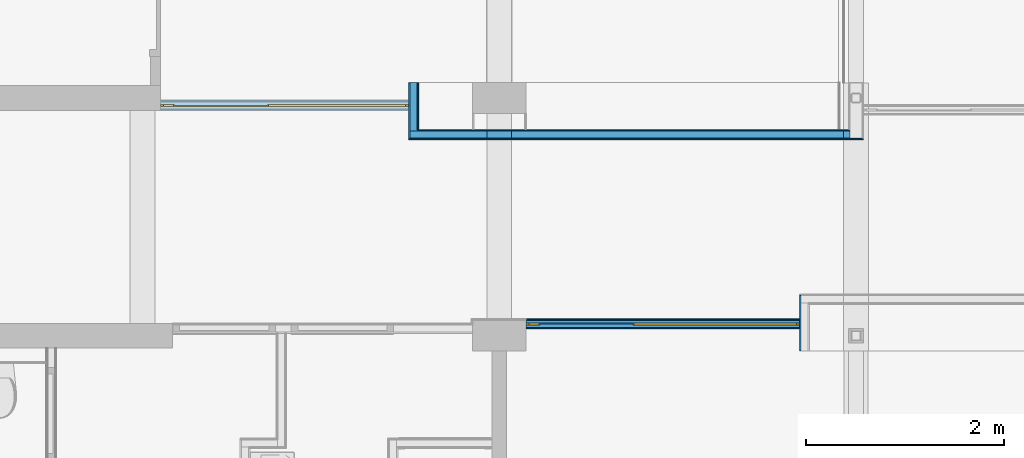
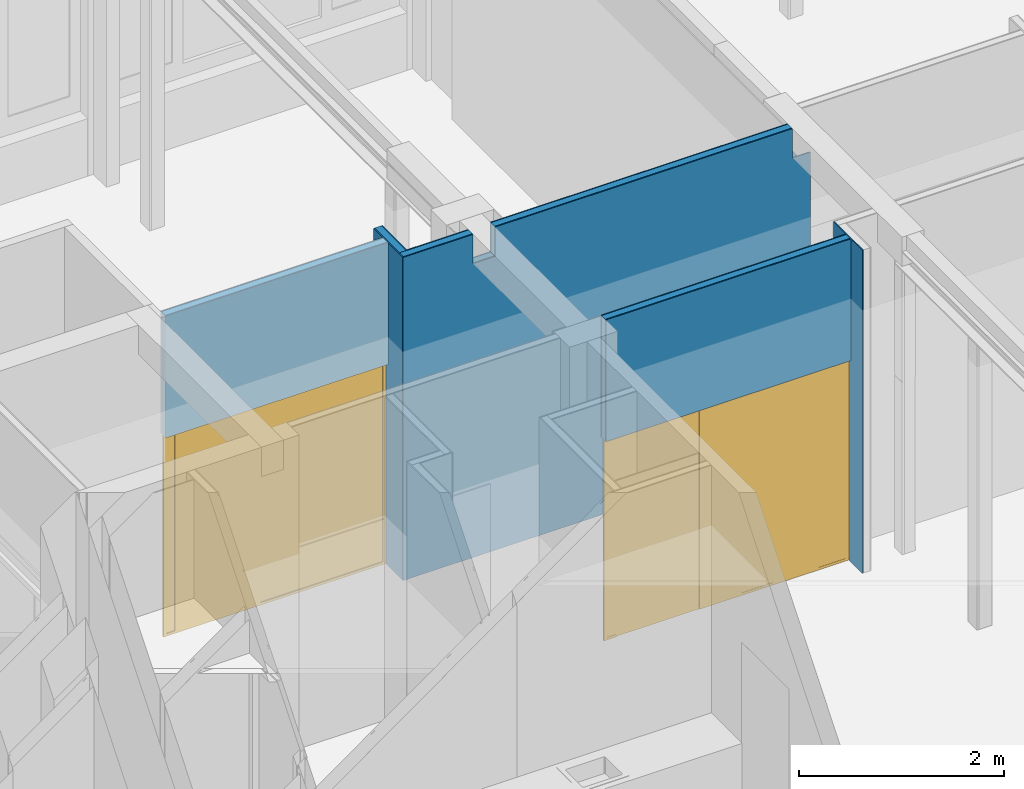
# One storey, part 108 of 135: 10 building element parts, 2 doors, 2 openings, 5 elements without a shape of their own, plus 3 elements that do not belong to this part.
"""IFC2X3 building model written with IfcOpenShell, lengths in millimetres."""

import ifcopenshell
import ifcopenshell.guid

model = None  # the IFC model being written
_history = None  # IfcOwnerHistory: only IFC2X3 demands one
_inside = {}  # id of a spatial element -> (the spatial element, [elements in it])
_under = {}  # id of a project, library or spatial element -> (it, [spatial elements below it])
_declared = {}  # id of a project -> (the project, [libraries it declares])
_typed = {}  # id of a type object -> (the type object, [elements of that type])
_made_of = {}  # id of a material, layer set ... -> (it, [elements and type objects made of it])


def new_model(schema):
    """Start an empty IFC model of exactly this schema.

    Asked for "IFC4X3", IfcOpenShell would pick the latest addendum, in which some entities
    have other attributes; the version numbers below select the first issue.
    IFC2X3 requires an IfcOwnerHistory on every rooted entity: one is made here for all.
    """
    global model, _history
    if schema == "IFC4X3":
        model = ifcopenshell.file(schema_version=(4, 3, 0, 0))
    else:
        model = ifcopenshell.file(schema=schema)
    _inside.clear()
    _under.clear()
    _declared.clear()
    _typed.clear()
    _made_of.clear()
    _history = None
    if model.schema == "IFC2X3":
        org = make("IfcOrganization", Name="unknown")
        user = make(
            "IfcPersonAndOrganization",
            ThePerson=make("IfcPerson", FamilyName="unknown"),
            TheOrganization=org,
        )
        app = make(
            "IfcApplication",
            ApplicationDeveloper=org,
            Version="unknown",
            ApplicationFullName="unknown",
            ApplicationIdentifier="unknown",
        )
        _history = make(
            "IfcOwnerHistory",
            OwningUser=user,
            OwningApplication=app,
            ChangeAction="ADDED",
            CreationDate=0,
        )
    return model


def make(cls, **values):
    """One entity of the class cls with the attributes given. An attribute that is None is left unset."""
    return model.create_entity(
        cls, **{name: value for name, value in values.items() if value is not None}
    )


def entity(cls, *values):
    """Any entity or typed value of the class cls, its attributes in the order of the schema. None: left unset."""
    e = model.create_entity(cls)
    for i, value in enumerate(values):
        if value is not None:
            e[i] = value
    return e


def rooted(cls, **values):
    """An entity with a GlobalId (a new one), such as an element, a storey or a relation."""
    return make(cls, GlobalId=ifcopenshell.guid.new(), OwnerHistory=_history, **values)


def si_unit(unit_type, name, prefix=None):
    """IfcSIUnit, for example si_unit("LENGTHUNIT", "METRE", prefix="MILLI")."""
    return make("IfcSIUnit", UnitType=unit_type, Prefix=prefix, Name=name)


def converted_unit(unit_type, name, factor, base, dimensions=None, offset=None):
    """IfcConversionBasedUnit, such as the inch: factor (a typed value) times the base unit."""
    return make(
        "IfcConversionBasedUnit"
        if offset is None
        else "IfcConversionBasedUnitWithOffset",
        ConversionOffset=offset,
        Dimensions=None
        if dimensions is None
        else entity("IfcDimensionalExponents", *dimensions),
        UnitType=unit_type,
        Name=name,
        ConversionFactor=make(
            "IfcMeasureWithUnit", ValueComponent=factor, UnitComponent=base
        ),
    )


def derived_unit(unit_type, elements):
    """IfcDerivedUnit: a product of units, each with its exponent."""
    return make(
        "IfcDerivedUnit",
        Elements=[
            make("IfcDerivedUnitElement", Unit=unit, Exponent=power)
            for unit, power in elements
        ],
        UnitType=unit_type,
    )


def money_unit(currency):
    """IfcMonetaryUnit."""
    return make("IfcMonetaryUnit", Currency=currency)


def assignment(units):
    """IfcUnitAssignment: the units of a project."""
    return None if units is None else make("IfcUnitAssignment", Units=units)


def point(xyz):
    """IfcCartesianPoint."""
    return None if xyz is None else make("IfcCartesianPoint", Coordinates=xyz)


def direction(xyz):
    """IfcDirection."""
    return None if xyz is None else make("IfcDirection", DirectionRatios=xyz)


def frame(location, z_axis=None, x_axis=None):
    """IfcAxis2Placement3D, a coordinate frame: its origin and axes. An axis left out is left unset."""
    return make(
        "IfcAxis2Placement3D",
        Location=point(location),
        Axis=direction(z_axis),
        RefDirection=direction(x_axis),
    )


def origin_with_axes():
    """The frame at (0, 0, 0) with the z axis (0, 0, 1) and the x axis (1, 0, 0) written out."""
    return frame((0.0, 0.0, 0.0), z_axis=(0.0, 0.0, 1.0), x_axis=(1.0, 0.0, 0.0))


def place(relative_to, where):
    """IfcLocalPlacement: puts the frame where relative to a parent placement (None: the world)."""
    return make(
        "IfcLocalPlacement", PlacementRelTo=relative_to, RelativePlacement=where
    )


def context(
    kind, dimensions, precision=None, world=None, true_north=None, identifier=None
):
    """IfcGeometricRepresentationContext, for example the 3D "Model" context."""
    return make(
        "IfcGeometricRepresentationContext",
        ContextIdentifier=identifier,
        ContextType=kind,
        CoordinateSpaceDimension=dimensions,
        Precision=precision,
        WorldCoordinateSystem=world,
        TrueNorth=true_north,
    )


def subcontext(parent, identifier, kind, view, scale=None):
    """IfcGeometricRepresentationSubContext, for example "Body" below "Model"."""
    return make(
        "IfcGeometricRepresentationSubContext",
        ContextIdentifier=identifier,
        ContextType=kind,
        ParentContext=parent,
        TargetScale=scale,
        TargetView=view,
    )


def project(units=None, contexts=None):
    """IfcProject with its units and contexts."""
    return rooted(
        "IfcProject",
        Name="project",
        RepresentationContexts=contexts,
        UnitsInContext=assignment(units),
    )


def spatial(cls, under=None, at=None, **own):
    """A site, building, storey or space (cls), placed at a placement, below another one or the project."""
    s = rooted(cls, ObjectPlacement=at, **own)
    if under is not None:
        _under.setdefault(under.id(), (under, []))[1].append(s)
    return s


def faces_of(points, faces, orient=None, outer=None):
    """IfcFace entities. A face is a list of loops; a loop is a list of indices into points, from 0.

    orient and outer hold one flag for each loop. By default every Orientation is true, the
    first loop of a face is its IfcFaceOuterBound and the others are IfcFaceBound.
    """
    made = []
    for i, loops in enumerate(faces):
        bounds = []
        for j, loop in enumerate(loops):
            is_outer = j == 0 if outer is None else outer[i][j]
            bounds.append(
                make(
                    "IfcFaceOuterBound" if is_outer else "IfcFaceBound",
                    Bound=make("IfcPolyLoop", Polygon=[points[k] for k in loop]),
                    Orientation=True if orient is None else orient[i][j],
                )
            )
        made.append(make("IfcFace", Bounds=bounds))
    return made


def open_shell(faces, orient=None, outer=None):
    """The faces of one IfcOpenShell. surface_model builds it on its shared points."""
    return ("IfcOpenShell", faces, orient, outer)


def faceted_brep(points, faces, orient=None, outer=None, voids=None):
    """IfcFacetedBrep: a solid bounded by flat faces; with voids (closed shells), ...WithVoids."""
    shared = [point(p) for p in points]
    hull = make("IfcClosedShell", CfsFaces=faces_of(shared, faces, orient, outer))
    if voids is None:
        return make("IfcFacetedBrep", Outer=hull)
    return make(
        "IfcFacetedBrepWithVoids",
        Outer=hull,
        Voids=[
            make(cls, CfsFaces=faces_of(shared, fs, o, b)) for cls, fs, o, b in voids
        ],
    )


def surface_model(cls, points, shells):
    """IfcFaceBasedSurfaceModel or IfcShellBasedSurfaceModel (cls): surfaces that need not close."""
    shared = [point(p) for p in points]
    made = [make(c, CfsFaces=faces_of(shared, fs, o, b)) for c, fs, o, b in shells]
    if cls == "IfcFaceBasedSurfaceModel":
        return make(cls, FbsmFaces=made)
    return make(cls, SbsmBoundary=made)


def shape(context_of_items, identifier, shape_type, items):
    """IfcShapeRepresentation: the items that make up one representation, for example the "Body"."""
    return make(
        "IfcShapeRepresentation",
        ContextOfItems=context_of_items,
        RepresentationIdentifier=identifier,
        RepresentationType=shape_type,
        Items=items,
    )


def material(Name=None, Category=None):
    """IfcMaterial."""
    return make("IfcMaterial", Name=Name, Category=Category)


def made_of(thing, what):
    """Note that an element or type object is made of a material, layer set ...; save() writes the relation."""
    if what is not None:
        _made_of.setdefault(what.id(), (what, []))[1].append(thing)
    return thing


def type_object(cls, material=None, **own):
    """A type object (cls), such as IfcWallType, which elements share."""
    return made_of(rooted(cls, **own), material)


def element(
    cls,
    number,
    at=None,
    inside=None,
    cuts=None,
    type_object=None,
    material=None,
    context=None,
    identifier="Body",
    shape_type=None,
    held_by="IfcProductDefinitionShape",
    body=None,
    shapes=None,
    **own,
):
    """One element of the class cls, such as IfcWall. Its Tag is "e" and its number.

    at: its placement. inside: the storey or other place that contains it. cuts: it is an
    opening in that element (IfcRelVoidsElement). A single representation is given by context,
    identifier, shape_type and body (its items); several are given by shapes. held_by: the class
    of the entity that holds the representations. save() writes the other relations.
    """
    e = rooted(cls, Tag="e%d" % number, ObjectPlacement=at, **own)
    if body is not None:
        shapes = [shape(context, identifier, shape_type, body)]
    if shapes is not None:
        e.Representation = make(held_by, Representations=shapes)
    if inside is not None:
        _inside.setdefault(inside.id(), (inside, []))[1].append(e)
    if cuts is not None:
        rooted(
            "IfcRelVoidsElement", RelatingBuildingElement=cuts, RelatedOpeningElement=e
        )
    if type_object is not None:
        _typed.setdefault(type_object.id(), (type_object, []))[1].append(e)
    return made_of(e, material)


def fill(opening, filler):
    """IfcRelFillsElement: the door or window that sits in an opening."""
    return rooted(
        "IfcRelFillsElement",
        RelatingOpeningElement=opening,
        RelatedBuildingElement=filler,
    )


def aggregate(whole, parts):
    """IfcRelAggregates: a whole, such as a stair, and the parts it consists of."""
    return rooted("IfcRelAggregates", RelatingObject=whole, RelatedObjects=parts)


def save(model, path):
    """Write the relations noted so far, then the file.

    IfcRelAggregates (storeys below a building ...), IfcRelContainedInSpatialStructure (elements
    in a storey), IfcRelDefinesByType, IfcRelAssociatesMaterial and IfcRelDeclares: one each for
    every whole, place, type object, material and project.
    """
    for whole, parts in _under.values():
        aggregate(whole, parts)
    for where, things in _inside.values():
        rooted(
            "IfcRelContainedInSpatialStructure",
            RelatedElements=things,
            RelatingStructure=where,
        )
    for kind, things in _typed.values():
        rooted("IfcRelDefinesByType", RelatedObjects=things, RelatingType=kind)
    for what, things in _made_of.values():
        rooted("IfcRelAssociatesMaterial", RelatedObjects=things, RelatingMaterial=what)
    for by, libraries in _declared.values():
        rooted("IfcRelDeclares", RelatingContext=by, RelatedDefinitions=libraries)
    model.write(path)


model = new_model("IFC2X3")

# Units and contexts
model_context = context("Model", 3, precision=0.01, world=origin_with_axes(), true_north=direction((0.0, 1.0)))
body_context = subcontext(model_context, "Body", "Model", "MODEL_VIEW")
ifc_project = project(units=[si_unit("LENGTHUNIT", "METRE", prefix="MILLI"), si_unit("AREAUNIT", "SQUARE_METRE"), si_unit("VOLUMEUNIT", "CUBIC_METRE"), converted_unit("PLANEANGLEUNIT", "DEGREE", entity("IfcPlaneAngleMeasure", 0.0174532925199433), si_unit("PLANEANGLEUNIT", "RADIAN"), dimensions=[0, 0, 0, 0, 0, 0, 0]), money_unit("EUR"), converted_unit("TIMEUNIT", "Year", entity("IfcTimeMeasure", 31557600.0), si_unit("TIMEUNIT", "SECOND"), dimensions=[0, 0, 1, 0, 0, 0, 0]), si_unit("MASSUNIT", "GRAM", prefix="KILO"), si_unit("THERMODYNAMICTEMPERATUREUNIT", "DEGREE_CELSIUS"), si_unit("LUMINOUSINTENSITYUNIT", "LUMEN"), si_unit("ENERGYUNIT", "JOULE", prefix="MEGA"), derived_unit("THERMALCONDUCTANCEUNIT", [(si_unit("POWERUNIT", "WATT"), 1), (si_unit("LENGTHUNIT", "METRE"), -1), (si_unit("THERMODYNAMICTEMPERATUREUNIT", "KELVIN"), -1)]), derived_unit("SPECIFICHEATCAPACITYUNIT", [(si_unit("ENERGYUNIT", "JOULE"), 1), (si_unit("MASSUNIT", "GRAM", prefix="KILO"), -1), (si_unit("THERMODYNAMICTEMPERATUREUNIT", "KELVIN"), -1)]), derived_unit("MASSDENSITYUNIT", [(si_unit("MASSUNIT", "GRAM", prefix="KILO"), 1), (si_unit("VOLUMEUNIT", "CUBIC_METRE"), -1)])], contexts=[model_context])

# Site, building, storey
site_placement = place(None, origin_with_axes())
site = spatial("IfcSite", under=ifc_project, at=site_placement, Name="Site", CompositionType="ELEMENT")
building_placement = place(site_placement, origin_with_axes())
building = spatial("IfcBuilding", under=site, at=building_placement, Name="Naam gebouw", CompositionType="ELEMENT")
storey_placement = place(building_placement, origin_with_axes())
storey = spatial("IfcBuildingStorey", under=building, at=storey_placement, Name="Begane grond N", CompositionType="ELEMENT", Elevation=0.0)

# Door
door_style = type_object("IfcDoorStyle", Name="D1 zl2 27", ConstructionType="NOTDEFINED", OperationType="USERDEFINED", ParameterTakesPrecedence=False, Sizeable=False)
wall_3_placement = place(storey_placement, frame((32581.11706441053, 20350.91242510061, 0.0), z_axis=(0.0, 0.0, 1.0), x_axis=(1.0, 0.0, 0.0)))
opening_1_placement = place(wall_3_placement, frame((1251.941467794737, 0.0, 0.0), z_axis=(0.0, 0.0, 1.0), x_axis=(1.0, 0.0, 0.0)))
door_1_placement = place(opening_1_placement, frame((-1251.941467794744, 0.0, 0.0), z_axis=(0.0, 0.0, 1.0), x_axis=(1.0, 0.0, 0.0)))
door_1 = element("IfcDoor", 1, at=door_1_placement, inside=storey, type_object=door_style, Name="_Merk-x", ObjectType="DOOR", OverallHeight=2400.0, OverallWidth=2503.88, context=body_context, shape_type="SurfaceModel", body=[
    faceted_brep([(2503.882935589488, 9.99999999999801, 0.0), (2503.882935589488, -10.00000000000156, 0.0), (2473.882935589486, -10.00000000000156, 0.0), (2473.882935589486, 9.99999999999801, 0.0), (2503.882935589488, 9.99999999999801, 2370.0), (2503.882935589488, -10.00000000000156, 2370.0), (2473.882935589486, -10.00000000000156, 2370.0), (2473.882935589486, -10.00000000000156, 30.0), (2473.882935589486, 9.99999999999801, 30.0), (2473.882935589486, 9.99999999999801, 2370.0)], [[[0, 1, 2, 3]], [[4, 5, 1, 0]], [[1, 5, 6, 7, 2]], [[3, 2, 7, 8]], [[0, 3, 8, 9, 4]], [[9, 6, 5, 4]], [[8, 7, 6, 9]]]),
    faceted_brep([(1060.000000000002, -9.000000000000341, 0.0), (1060.000000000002, -10.00000000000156, 0.0), (1060.000000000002, -10.00000000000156, 2370.0), (1060.000000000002, -9.000000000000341, 2370.0), (1077.000000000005, -9.000000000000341, 0.0), (1077.000000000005, 9.99999999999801, 0.0), (1090.000000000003, 9.99999999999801, 0.0), (1090.000000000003, -10.00000000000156, 0.0), (1090.000000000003, -10.00000000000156, 30.00000000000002), (1090.000000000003, -10.00000000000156, 2370.0), (1077.000000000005, -9.000000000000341, 2370.0), (1090.000000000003, 9.99999999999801, 2370.0), (1077.000000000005, 9.99999999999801, 2370.0), (1090.000000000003, 9.99999999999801, 30.00000000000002)], [[[0, 1, 2, 3]], [[4, 5, 6, 7, 1, 0]], [[7, 8, 9, 2, 1]], [[10, 3, 2, 9, 11, 12]], [[10, 4, 0, 3]], [[12, 5, 4, 10]], [[12, 11, 13, 6, 5]], [[6, 13, 8, 7]], [[13, 11, 9, 8]]]),
    faceted_brep([(2473.882935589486, 9.99999999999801, 30.0), (2473.882935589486, -10.00000000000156, 30.0), (2473.882935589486, -10.00000000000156, 0.0), (2473.882935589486, 9.99999999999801, 0.0), (1090.000000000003, 9.99999999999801, 30.0), (1090.000000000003, -10.00000000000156, 30.0), (1090.000000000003, -10.00000000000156, 0.0), (1090.000000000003, 9.99999999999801, 0.0)], [[[0, 1, 2, 3]], [[4, 5, 1, 0]], [[1, 5, 6, 2]], [[3, 2, 6, 7]], [[0, 3, 7, 4]], [[7, 6, 5, 4]]]),
    faceted_brep([(0.0, 9.99999999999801, 0.0), (0.0, -10.00000000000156, 0.0), (0.0, -10.00000000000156, 2370.0), (0.0, 9.99999999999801, 2370.0), (30.00000000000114, 9.99999999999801, 0.0), (30.00000000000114, -10.00000000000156, 0.0), (30.00000000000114, -10.00000000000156, 30.0), (30.00000000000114, -10.00000000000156, 2370.0), (30.00000000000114, 9.99999999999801, 2370.0), (30.00000000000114, 9.99999999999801, 30.0)], [[[0, 1, 2, 3]], [[4, 5, 1, 0]], [[1, 5, 6, 7, 2]], [[3, 2, 7, 8]], [[0, 3, 8, 9, 4]], [[9, 6, 5, 4]], [[8, 7, 6, 9]]]),
    faceted_brep([(143.0000000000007, -9.000000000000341, 2370.0), (143.0000000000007, 9.99999999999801, 2370.0), (130.0000000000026, 9.99999999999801, 2370.0), (130.0000000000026, -10.00000000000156, 2370.0), (160.0000000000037, -10.00000000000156, 2370.0), (160.0000000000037, -9.000000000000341, 2370.0), (143.0000000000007, -9.000000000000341, 0.0), (143.0000000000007, 9.99999999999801, 0.0), (130.0000000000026, 9.99999999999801, 0.0), (130.0000000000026, 9.99999999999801, 30.00000000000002), (130.0000000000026, -10.00000000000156, 30.00000000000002), (160.0000000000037, -10.00000000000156, 0.0), (130.0000000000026, -10.00000000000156, 0.0), (160.0000000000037, -9.000000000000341, 0.0)], [[[0, 1, 2, 3, 4, 5]], [[0, 6, 7, 1]], [[7, 8, 9, 2, 1]], [[2, 9, 10, 3]], [[11, 4, 3, 10, 12]], [[5, 4, 11, 13]], [[5, 13, 6, 0]], [[6, 13, 11, 12, 8, 7]], [[9, 8, 12, 10]]]),
    faceted_brep([(130.0000000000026, 9.99999999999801, 30.0), (130.0000000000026, -10.00000000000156, 30.0), (130.0000000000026, -10.00000000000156, 0.0), (130.0000000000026, 9.99999999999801, 0.0), (30.00000000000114, 9.99999999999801, 30.0), (30.00000000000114, -10.00000000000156, 30.0), (30.00000000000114, -10.00000000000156, 0.0), (30.00000000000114, 9.99999999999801, 0.0)], [[[0, 1, 2, 3]], [[4, 5, 1, 0]], [[1, 5, 6, 2]], [[3, 2, 6, 7]], [[0, 3, 7, 4]], [[7, 6, 5, 4]]]),
    faceted_brep([(1077.000000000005, 9.99999999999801, 2387.0), (143.0000000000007, 9.99999999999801, 2387.0), (143.0000000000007, 9.99999999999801, 2370.0), (130.0000000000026, 9.99999999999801, 2370.0), (30.00000000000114, 9.99999999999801, 2370.0), (0.0, 9.99999999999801, 2370.0), (0.0, 9.99999999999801, 2400.0), (2503.882935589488, 9.99999999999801, 2400.0), (2503.882935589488, 9.99999999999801, 2370.0), (2473.882935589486, 9.99999999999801, 2370.0), (1090.000000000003, 9.99999999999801, 2370.0), (1077.000000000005, 9.99999999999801, 2370.0), (1077.000000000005, -9.000000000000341, 2387.0), (143.0000000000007, -9.000000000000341, 2387.0), (143.0000000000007, -9.000000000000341, 2370.0), (160.0000000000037, -9.000000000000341, 2370.0), (160.0000000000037, -10.00000000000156, 2370.0), (130.0000000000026, -10.00000000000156, 2370.0), (30.00000000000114, -10.00000000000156, 2370.0), (0.0, -10.00000000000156, 2370.0), (0.0, -10.00000000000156, 2400.0), (2503.882935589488, -10.00000000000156, 2400.0), (2503.882935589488, -10.00000000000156, 2370.0), (2473.882935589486, -10.00000000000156, 2370.0), (1090.000000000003, -10.00000000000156, 2370.0), (1077.000000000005, -9.000000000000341, 2370.0), (1060.000000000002, -10.00000000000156, 2370.0)], [[[0, 1, 2, 3, 4, 5, 6, 7, 8, 9, 10, 11]], [[0, 12, 13, 1]], [[1, 13, 14, 2]], [[14, 15, 16, 17, 18, 4, 3, 2]], [[5, 4, 18, 19]], [[6, 5, 19, 20]], [[7, 6, 20, 21]], [[8, 7, 21, 22]], [[9, 8, 22, 23]], [[10, 9, 23, 24]], [[25, 11, 10, 24, 26, 16, 15]], [[11, 25, 12, 0]], [[14, 13, 12, 25, 15]], [[18, 17, 16, 26, 24, 23, 22, 21, 20, 19]]]),
    faceted_brep([(143.0000000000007, 0.9999999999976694, 0.0), (1077.000000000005, 0.9999999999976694, 0.0), (1077.000000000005, -9.000000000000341, 0.0), (143.0000000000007, -9.000000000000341, 0.0), (143.0000000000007, 0.9999999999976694, 2387.0), (1077.000000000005, 0.9999999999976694, 2387.0), (1077.000000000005, -9.000000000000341, 2387.0), (143.0000000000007, -9.000000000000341, 2387.0)], [[[0, 1, 2, 3]], [[0, 4, 5, 1]], [[1, 5, 6, 2]], [[3, 2, 6, 7]], [[4, 0, 3, 7]], [[5, 4, 7, 6]]]),
    surface_model("IfcShellBasedSurfaceModel", [(2473.882935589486, 8.999999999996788, 30.0), (1090.000000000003, 8.999999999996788, 30.0), (1090.000000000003, 8.999999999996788, 2370.0), (2473.882935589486, 8.999999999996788, 2370.0)], [open_shell([[[0, 1, 2, 3]]])]),
    surface_model("IfcShellBasedSurfaceModel", [(2473.882935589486, 0.9999999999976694, 30.0), (2473.882935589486, 0.9999999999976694, 2370.0), (1090.000000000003, 0.9999999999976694, 2370.0), (1090.000000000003, 0.9999999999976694, 30.0)], [open_shell([[[0, 1, 2, 3]]])]),
    surface_model("IfcShellBasedSurfaceModel", [(130.0000000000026, 8.999999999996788, 30.0), (30.00000000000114, 8.999999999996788, 30.0), (30.00000000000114, 8.999999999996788, 2370.0), (130.0000000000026, 8.999999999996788, 2370.0)], [open_shell([[[0, 1, 2, 3]]])]),
    surface_model("IfcShellBasedSurfaceModel", [(130.0000000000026, 0.9999999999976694, 30.0), (130.0000000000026, 0.9999999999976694, 2370.0), (30.00000000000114, 0.9999999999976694, 2370.0), (30.00000000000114, 0.9999999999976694, 30.0)], [open_shell([[[0, 1, 2, 3]]])]),
])

wall_4_placement = place(storey_placement, frame((36270.0, 18145.9124251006, 0.0), z_axis=(0.0, 0.0, 1.0), x_axis=(1.0, 0.0, 0.0)))
opening_2_placement = place(wall_4_placement, frame((1379.999999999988, 0.0, 0.0), z_axis=(0.0, 0.0, 1.0), x_axis=(1.0, 0.0, 0.0)))
door_2_placement = place(opening_2_placement, frame((1379.999999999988, 0.0, 0.0), z_axis=(0.0, 0.0, 1.0), x_axis=(-1.0, 0.0, 0.0)))
door_2 = element("IfcDoor", 2, at=door_2_placement, inside=storey, type_object=door_style, Name="_Merk-x", ObjectType="DOOR", OverallHeight=2400.0, OverallWidth=2760.0, context=body_context, shape_type="SurfaceModel", body=[
    faceted_brep([(0.0, 10.00000000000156, 0.0), (30.00000000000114, 10.00000000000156, 0.0), (30.00000000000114, -9.99999999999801, 0.0), (0.0, -9.99999999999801, 0.0), (0.0, 10.00000000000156, 2370.0), (30.00000000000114, 10.00000000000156, 2370.0), (30.00000000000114, 10.00000000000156, 30.0), (30.00000000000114, -9.99999999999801, 30.0), (30.00000000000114, -9.99999999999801, 2370.0), (0.0, -9.99999999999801, 2370.0)], [[[0, 1, 2, 3]], [[0, 4, 5, 6, 1]], [[1, 6, 7, 2]], [[3, 2, 7, 8, 9]], [[4, 0, 3, 9]], [[5, 4, 9, 8]], [[6, 5, 8, 7]]]),
    faceted_brep([(1699.999999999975, -8.999999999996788, 0.0), (1699.999999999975, -9.000000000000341, 2370.0), (1699.999999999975, -9.99999999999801, 2370.0), (1699.999999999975, -9.99999999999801, 0.0), (1682.999999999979, -9.000000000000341, 2370.0), (1682.999999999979, -8.999999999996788, 0.0), (1682.999999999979, 10.00000000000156, 2370.0), (1669.99999999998, 10.00000000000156, 2370.0), (1669.99999999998, -9.99999999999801, 2370.0), (1669.99999999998, -9.99999999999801, 0.0), (1669.99999999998, -9.99999999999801, 30.00000000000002), (1669.99999999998, 10.00000000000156, 0.0), (1682.999999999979, 10.00000000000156, 0.0), (1669.99999999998, 10.00000000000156, 30.00000000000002)], [[[0, 1, 2, 3]], [[4, 1, 0, 5]], [[4, 6, 7, 8, 2, 1]], [[9, 3, 2, 8, 10]], [[5, 0, 3, 9, 11, 12]], [[6, 4, 5, 12]], [[6, 12, 11, 13, 7]], [[13, 10, 8, 7]], [[11, 9, 10, 13]]]),
    faceted_brep([(30.00000000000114, 10.00000000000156, 30.0), (30.00000000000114, 10.00000000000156, 0.0), (30.00000000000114, -9.99999999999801, 0.0), (30.00000000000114, -9.99999999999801, 30.0), (1669.99999999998, 10.00000000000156, 30.0), (1669.99999999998, 10.00000000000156, 0.0), (1669.99999999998, -9.99999999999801, 0.0), (1669.99999999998, -9.99999999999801, 30.0)], [[[0, 1, 2, 3]], [[0, 4, 5, 1]], [[1, 5, 6, 2]], [[3, 2, 6, 7]], [[4, 0, 3, 7]], [[5, 4, 7, 6]]]),
    faceted_brep([(2759.999999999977, 10.00000000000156, 0.0), (2759.999999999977, 10.00000000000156, 2370.0), (2759.999999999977, -9.99999999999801, 2370.0), (2759.999999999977, -9.99999999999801, 0.0), (2729.999999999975, 10.00000000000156, 0.0), (2729.999999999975, 10.00000000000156, 30.0), (2729.999999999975, 10.00000000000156, 2370.0), (2729.999999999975, -9.99999999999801, 2370.0), (2729.999999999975, -9.99999999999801, 30.0), (2729.999999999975, -9.99999999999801, 0.0)], [[[0, 1, 2, 3]], [[0, 4, 5, 6, 1]], [[1, 6, 7, 2]], [[3, 2, 7, 8, 9]], [[4, 0, 3, 9]], [[5, 4, 9, 8]], [[6, 5, 8, 7]]]),
    faceted_brep([(2616.999999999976, -9.000000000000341, 2370.0), (2599.99999999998, -9.000000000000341, 2370.0), (2599.99999999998, -9.99999999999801, 2370.0), (2629.999999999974, -9.99999999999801, 2370.0), (2629.999999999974, 10.00000000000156, 2370.0), (2616.999999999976, 10.00000000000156, 2370.0), (2616.999999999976, -9.000000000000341, 0.0), (2599.99999999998, -9.000000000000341, 0.0), (2599.99999999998, -9.99999999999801, 0.0), (2629.999999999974, -9.99999999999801, 0.0), (2629.999999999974, -9.99999999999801, 30.00000000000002), (2629.999999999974, 10.00000000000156, 30.00000000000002), (2616.999999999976, 10.00000000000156, 0.0), (2629.999999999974, 10.00000000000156, 0.0)], [[[0, 1, 2, 3, 4, 5]], [[1, 0, 6, 7]], [[1, 7, 8, 2]], [[8, 9, 10, 3, 2]], [[4, 3, 10, 11]], [[12, 5, 4, 11, 13]], [[0, 5, 12, 6]], [[6, 12, 13, 9, 8, 7]], [[11, 10, 9, 13]]]),
    faceted_brep([(2629.999999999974, 10.00000000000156, 30.0), (2629.999999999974, 10.00000000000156, 0.0), (2629.999999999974, -9.99999999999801, 0.0), (2629.999999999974, -9.99999999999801, 30.0), (2729.999999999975, 10.00000000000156, 30.0), (2729.999999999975, 10.00000000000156, 0.0), (2729.999999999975, -9.99999999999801, 0.0), (2729.999999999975, -9.99999999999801, 30.0)], [[[0, 1, 2, 3]], [[0, 4, 5, 1]], [[1, 5, 6, 2]], [[3, 2, 6, 7]], [[4, 0, 3, 7]], [[5, 4, 7, 6]]]),
    faceted_brep([(1682.999999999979, 10.00000000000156, 2387.0), (1682.999999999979, 10.00000000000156, 2370.0), (1669.99999999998, 10.00000000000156, 2370.0), (30.00000000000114, 10.00000000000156, 2370.0), (0.0, 10.00000000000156, 2370.0), (0.0, 10.00000000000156, 2400.0), (2759.999999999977, 10.00000000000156, 2400.0), (2759.999999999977, 10.00000000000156, 2370.0), (2729.999999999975, 10.00000000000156, 2370.0), (2629.999999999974, 10.00000000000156, 2370.0), (2616.999999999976, 10.00000000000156, 2370.0), (2616.999999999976, 10.00000000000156, 2387.0), (1682.999999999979, -9.000000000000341, 2387.0), (1682.999999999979, -9.000000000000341, 2370.0), (2599.99999999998, -9.000000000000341, 2370.0), (2599.99999999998, -9.99999999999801, 2370.0), (1699.999999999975, -9.99999999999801, 2370.0), (1669.99999999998, -9.99999999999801, 2370.0), (30.00000000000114, -9.99999999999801, 2370.0), (0.0, -9.99999999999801, 2370.0), (0.0, -9.99999999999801, 2400.0), (2759.999999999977, -9.99999999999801, 2400.0), (2759.999999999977, -9.99999999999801, 2370.0), (2729.999999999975, -9.99999999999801, 2370.0), (2616.999999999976, -9.000000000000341, 2370.0), (2629.999999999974, -9.99999999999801, 2370.0), (2616.999999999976, -9.000000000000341, 2387.0)], [[[0, 1, 2, 3, 4, 5, 6, 7, 8, 9, 10, 11]], [[1, 0, 12, 13]], [[13, 14, 15, 16, 17, 2, 1]], [[2, 17, 18, 3]], [[3, 18, 19, 4]], [[4, 19, 20, 5]], [[5, 20, 21, 6]], [[6, 21, 22, 7]], [[7, 22, 23, 8]], [[24, 10, 9, 8, 23, 25, 15, 14]], [[11, 10, 24, 26]], [[0, 11, 26, 12]], [[24, 14, 13, 12, 26]], [[23, 22, 21, 20, 19, 18, 17, 16, 15, 25]]]),
    faceted_brep([(2616.999999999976, 1.000000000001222, 0.0), (2616.999999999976, -9.000000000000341, 0.0), (1682.999999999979, -8.999999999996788, 0.0), (1682.999999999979, 1.000000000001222, 0.0), (2616.999999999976, 1.000000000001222, 2387.0), (2616.999999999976, -9.000000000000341, 2387.0), (1682.999999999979, -9.000000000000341, 2387.0), (1682.999999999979, 1.000000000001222, 2387.0)], [[[0, 1, 2, 3]], [[4, 5, 1, 0]], [[1, 5, 6, 2]], [[3, 2, 6, 7]], [[0, 3, 7, 4]], [[7, 6, 5, 4]]]),
    surface_model("IfcShellBasedSurfaceModel", [(30.00000000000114, 9.000000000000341, 30.0), (30.00000000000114, 9.000000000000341, 2370.0), (1669.99999999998, 9.000000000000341, 2370.0), (1669.99999999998, 9.000000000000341, 30.0)], [open_shell([[[0, 1, 2, 3]]])]),
    surface_model("IfcShellBasedSurfaceModel", [(30.00000000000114, 1.000000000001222, 30.0), (1669.99999999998, 1.000000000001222, 30.0), (1669.99999999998, 1.000000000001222, 2370.0), (30.00000000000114, 1.000000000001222, 2370.0)], [open_shell([[[0, 1, 2, 3]]])]),
    surface_model("IfcShellBasedSurfaceModel", [(2629.999999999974, 9.000000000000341, 30.0), (2629.999999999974, 9.000000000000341, 2370.0), (2729.999999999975, 9.000000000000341, 2370.0), (2729.999999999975, 9.000000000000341, 30.0)], [open_shell([[[0, 1, 2, 3]]])]),
    surface_model("IfcShellBasedSurfaceModel", [(2629.999999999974, 1.000000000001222, 30.0), (2729.999999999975, 1.000000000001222, 30.0), (2729.999999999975, 1.000000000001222, 2370.0), (2629.999999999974, 1.000000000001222, 2370.0)], [open_shell([[[0, 1, 2, 3]]])]),
])

# Wall, building element parts
wall_type = type_object("IfcWallType", Name="Metalstud iso 100 100", PredefinedType="NOTDEFINED")
wall_1_placement = place(storey_placement, frame((35185.00000000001, 20580.9124251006, 0.0), z_axis=(0.0, 0.0, 1.0), x_axis=(0.0, -1.0, 0.0)))
wall_1 = element("IfcWall", 3, at=wall_1_placement, inside=storey, type_object=wall_type, Name="_Wand-x")
ifc_material_1 = material(Name="Gipsplaat")
building_element_part_1_placement = place(wall_1_placement, origin_with_axes())
building_element_part_1 = element("IfcBuildingElementPart", 4, at=building_element_part_1_placement, material=ifc_material_1, Name="Gipsplaat", context=body_context, shape_type="Brep", body=[
    faceted_brep([(0.0, -12.50000000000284, 3850.0), (0.0, 0.0, 3850.0), (0.0, 0.0, 0.0), (0.0, -12.50000000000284, 0.0), (474.9999999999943, 0.0, 3850.0), (474.9999999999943, -12.50000000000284, 3850.0), (474.9999999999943, 0.0, 0.0), (474.9999999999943, -12.50000000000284, 0.0)], [[[0, 1, 2, 3]], [[4, 1, 0, 5]], [[1, 4, 6, 2]], [[2, 6, 7, 3]], [[5, 0, 3, 7]], [[4, 5, 7, 6]]]),
])
building_element_part_2_placement = place(wall_1_placement, origin_with_axes())
building_element_part_2 = element("IfcBuildingElementPart", 5, at=building_element_part_2_placement, material=ifc_material_1, Name="Gipsplaat", context=body_context, shape_type="Brep", body=[
    faceted_brep([(0.0, -100.0000000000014, 3850.0), (0.0, -87.49999999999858, 3850.0), (0.0, -87.49999999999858, 0.0), (0.0, -100.0000000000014, 0.0), (474.9999999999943, -87.49999999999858, 3850.0), (474.9999999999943, -100.0000000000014, 3850.0), (562.499999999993, -100.0000000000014, 3850.0), (562.499999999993, -87.49999999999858, 3850.0), (562.499999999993, -87.49999999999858, 0.0), (562.499999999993, -100.0000000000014, 0.0)], [[[0, 1, 2, 3]], [[4, 1, 0, 5, 6, 7]], [[1, 4, 7, 8, 2]], [[2, 8, 9, 3]], [[5, 0, 3, 9, 6]], [[9, 8, 7, 6]]]),
])
ifc_material_2 = material(Name="Isolatie - Steenwol LSW")
building_element_part_3_placement = place(wall_1_placement, origin_with_axes())
building_element_part_3 = element("IfcBuildingElementPart", 6, at=building_element_part_3_placement, material=ifc_material_2, Name="Isolatie - Steenwol LSW", context=body_context, shape_type="Brep", body=[
    faceted_brep([(0.0, -87.49999999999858, 3850.0), (0.0, -12.50000000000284, 3850.0), (0.0, -12.50000000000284, 0.0), (0.0, -87.49999999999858, 0.0), (474.9999999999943, -12.50000000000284, 3850.0), (474.9999999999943, -87.49999999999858, 3850.0), (487.4999999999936, -87.49999999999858, 3850.0), (487.4999999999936, -12.50000000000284, 3850.0), (487.4999999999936, -12.50000000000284, 0.0), (487.4999999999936, -87.49999999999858, 0.0)], [[[0, 1, 2, 3]], [[4, 1, 0, 5, 6, 7]], [[1, 4, 7, 8, 2]], [[2, 8, 9, 3]], [[5, 0, 3, 9, 6]], [[9, 8, 7, 6]]]),
])
aggregate(wall_1, [building_element_part_1, building_element_part_2, building_element_part_3])

wall_2_placement = place(storey_placement, frame((39600.00000000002, 20105.91242510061, 0.0), z_axis=(0.0, 0.0, 1.0), x_axis=(-1.0, 0.0, 0.0)))
wall_2 = element("IfcWall", 7, at=wall_2_placement, inside=storey, type_object=wall_type, Name="_Wand-x")
building_element_part_4_placement = place(wall_2_placement, origin_with_axes())
building_element_part_4 = element("IfcBuildingElementPart", 8, at=building_element_part_4_placement, material=ifc_material_1, Name="Gipsplaat", context=body_context, shape_type="Brep", body=[
    faceted_brep([(125.0000000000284, 87.49999999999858, 3850.0), (125.0000000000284, 87.49999999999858, 3499.999996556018), (-75.00000000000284, 87.49999999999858, 3499.999996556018), (-75.00000000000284, 87.49999999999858, 0.0), (4515.000000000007, 87.49999999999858, 0.0), (4515.000000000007, 87.49999999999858, 3850.0), (3725.000000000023, 87.49999999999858, 3850.0), (3725.000000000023, 87.49999999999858, 3499.999993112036), (3475.000000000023, 87.49999999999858, 3499.999993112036), (3475.000000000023, 87.49999999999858, 3850.0), (125.0000000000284, 100.0000000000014, 3850.0), (125.0000000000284, 100.0000000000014, 3499.999996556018), (-75.00000000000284, 100.0000000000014, 3499.999996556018), (-75.00000000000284, 100.0000000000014, 0.0), (4515.000000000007, 100.0000000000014, 0.0), (4515.000000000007, 100.0000000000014, 3850.0), (3725.000000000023, 100.0000000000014, 3850.0), (3725.000000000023, 100.0000000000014, 3499.999993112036), (3475.000000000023, 100.0000000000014, 3499.999993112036), (3475.000000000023, 100.0000000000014, 3850.0)], [[[0, 1, 2, 3, 4, 5, 6, 7, 8, 9]], [[1, 0, 10, 11]], [[12, 2, 1, 11]], [[2, 12, 13, 3]], [[14, 4, 3, 13]], [[15, 5, 4, 14]], [[16, 6, 5, 15]], [[7, 6, 16, 17]], [[8, 7, 17, 18]], [[19, 9, 8, 18]], [[10, 0, 9, 19]], [[11, 10, 19, 18, 17, 16, 15, 14, 13, 12]]]),
])
building_element_part_5_placement = place(wall_2_placement, origin_with_axes())
building_element_part_5 = element("IfcBuildingElementPart", 9, at=building_element_part_5_placement, material=ifc_material_2, Name="Isolatie - Steenwol LSW", context=body_context, shape_type="Brep", body=[
    faceted_brep([(125.0000000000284, 12.49999999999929, 3850.0), (125.0000000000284, 12.49999999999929, 3499.999996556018), (62.5, 12.49999999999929, 3499.999996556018), (62.5, 12.49999999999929, 0.0), (4502.500000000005, 12.49999999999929, 0.0), (4502.500000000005, 12.49999999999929, 3850.0), (3725.000000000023, 12.49999999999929, 3850.0), (3725.000000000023, 12.49999999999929, 3499.999993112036), (3475.000000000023, 12.49999999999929, 3499.999993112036), (3475.000000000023, 12.49999999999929, 3850.0), (125.0000000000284, 87.49999999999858, 3850.0), (125.0000000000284, 87.49999999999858, 3499.999996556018), (62.5, 87.49999999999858, 3499.999996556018), (62.5, 87.49999999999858, 0.0), (4502.500000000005, 87.49999999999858, 0.0), (4502.500000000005, 87.49999999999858, 3850.0), (3725.000000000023, 87.49999999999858, 3850.0), (3725.000000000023, 87.49999999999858, 3499.999993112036), (3475.000000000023, 87.49999999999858, 3499.999993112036), (3475.000000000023, 87.49999999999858, 3850.0)], [[[0, 1, 2, 3, 4, 5, 6, 7, 8, 9]], [[1, 0, 10, 11]], [[12, 2, 1, 11]], [[2, 12, 13, 3]], [[14, 4, 3, 13]], [[15, 5, 4, 14]], [[16, 6, 5, 15]], [[7, 6, 16, 17]], [[8, 7, 17, 18]], [[19, 9, 8, 18]], [[10, 0, 9, 19]], [[11, 10, 19, 18, 17, 16, 15, 14, 13, 12]]]),
])
building_element_part_6_placement = place(wall_2_placement, origin_with_axes())
building_element_part_6 = element("IfcBuildingElementPart", 10, at=building_element_part_6_placement, material=ifc_material_1, Name="Gipsplaat", context=body_context, shape_type="Brep", body=[
    faceted_brep([(125.0000000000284, 0.0, 3850.0), (125.0000000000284, 0.0, 3499.999996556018), (62.5, 0.0, 3499.999996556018), (62.5, 0.0, 0.0), (4427.500000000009, 0.0, 0.0), (4427.500000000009, 0.0, 3850.0), (3725.000000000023, 0.0, 3850.0), (3725.000000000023, 0.0, 3499.999993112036), (3475.000000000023, 0.0, 3499.999993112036), (3475.000000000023, 0.0, 3850.0), (125.0000000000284, 12.49999999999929, 3850.0), (125.0000000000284, 12.49999999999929, 3499.999996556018), (62.5, 12.49999999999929, 3499.999996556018), (62.5, 12.49999999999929, 0.0), (4427.500000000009, 12.49999999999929, 0.0), (4427.500000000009, 12.49999999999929, 3850.0), (3725.000000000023, 12.49999999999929, 3850.0), (3725.000000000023, 12.49999999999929, 3499.999993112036), (3475.000000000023, 12.49999999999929, 3499.999993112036), (3475.000000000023, 12.49999999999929, 3850.0)], [[[0, 1, 2, 3, 4, 5, 6, 7, 8, 9]], [[1, 0, 10, 11]], [[12, 2, 1, 11]], [[2, 12, 13, 3]], [[14, 4, 3, 13]], [[15, 5, 4, 14]], [[16, 6, 5, 15]], [[7, 6, 16, 17]], [[8, 7, 17, 18]], [[19, 9, 8, 18]], [[10, 0, 9, 19]], [[11, 10, 19, 18, 17, 16, 15, 14, 13, 12]]]),
])
aggregate(wall_2, [building_element_part_4, building_element_part_5, building_element_part_6])

# Wall, opening
wall_3 = element("IfcWall", 11, at=wall_3_placement, inside=storey, type_object=wall_type, Name="_Wand-x")
opening_1 = element("IfcOpeningElement", 12, at=opening_1_placement, cuts=wall_3, Name="_Merk-x", context=body_context, shape_type="Brep", body=[
    faceted_brep([(1251.941467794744, -10.00000000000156, 0.0), (1251.941467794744, -10.00000000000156, 2400.0), (1251.941467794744, -51.00000000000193, 2400.0), (1251.941467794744, -51.00000000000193, 0.0), (1251.941467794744, 51.00000000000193, 0.0), (1251.941467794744, 51.00000000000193, 2400.0), (-1251.941467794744, -10.00000000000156, 2400.0), (-1251.941467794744, -51.00000000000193, 2400.0), (-1251.941467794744, 51.00000000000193, 2400.0), (-1251.941467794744, -51.00000000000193, 0.0), (-1251.941467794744, -10.00000000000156, 0.0), (-1251.941467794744, 51.00000000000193, 0.0)], [[[0, 1, 2, 3]], [[1, 0, 4, 5]], [[6, 7, 2, 1, 5, 8]], [[7, 9, 3, 2]], [[0, 3, 9, 10, 11, 4]], [[5, 4, 11, 8]], [[6, 10, 9, 7]], [[10, 6, 8, 11]]]),
])

fill(opening_1, door_1)

# Building element part
building_element_part_7_placement = place(wall_3_placement, origin_with_axes())
building_element_part_7 = element("IfcBuildingElementPart", 13, at=building_element_part_7_placement, material=ifc_material_1, Name="Gipsplaat", context=body_context, shape_type="Brep", body=[
    faceted_brep([(2503.88293558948, 37.50000000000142, 2400.0), (2503.88293558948, 50.00000000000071, 2400.0), (2503.88293558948, 50.00000000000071, 3850.0), (2503.88293558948, 37.50000000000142, 3850.0), (0.0, 50.00000000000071, 2400.0), (0.0, 37.50000000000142, 2400.0), (0.0, 50.00000000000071, 3850.0), (0.0, 37.50000000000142, 3850.0)], [[[0, 1, 2, 3]], [[4, 1, 0, 5]], [[1, 4, 6, 2]], [[2, 6, 7, 3]], [[5, 0, 3, 7]], [[4, 5, 7, 6]]]),
])

building_element_part_8_placement = place(wall_3_placement, origin_with_axes())
building_element_part_8 = element("IfcBuildingElementPart", 14, at=building_element_part_8_placement, material=ifc_material_2, Name="Isolatie - Steenwol LSW", context=body_context, shape_type="Brep", body=[
    faceted_brep([(2503.88293558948, -10.00000000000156, 2400.0), (2503.88293558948, 37.50000000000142, 2400.0), (2503.88293558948, 37.50000000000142, 3850.0), (2503.88293558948, -37.49999999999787, 3850.0), (2503.88293558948, -37.49999999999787, 2400.0), (0.0, -10.00000000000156, 2400.0), (0.0, 37.50000000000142, 2400.0), (0.0, -37.50000000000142, 2400.0), (0.0, 37.50000000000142, 3850.0), (0.0, -37.50000000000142, 3850.0)], [[[0, 1, 2, 3, 4]], [[5, 6, 1, 0, 4, 7]], [[1, 6, 8, 2]], [[8, 9, 3, 2]], [[4, 3, 9, 7]], [[6, 5, 7, 9, 8]]]),
])

building_element_part_9_placement = place(wall_3_placement, origin_with_axes())
building_element_part_9 = element("IfcBuildingElementPart", 15, at=building_element_part_9_placement, material=ifc_material_1, Name="Gipsplaat", context=body_context, shape_type="Brep", body=[
    faceted_brep([(2503.88293558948, -50.00000000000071, 2400.0), (2503.88293558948, -37.49999999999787, 2400.0), (2503.88293558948, -37.49999999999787, 3850.0), (2503.88293558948, -50.00000000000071, 3850.0), (0.0, -37.50000000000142, 2400.0), (0.0, -50.00000000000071, 2400.0), (0.0, -37.50000000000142, 3850.0), (0.0, -50.00000000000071, 3850.0)], [[[0, 1, 2, 3]], [[4, 1, 0, 5]], [[1, 4, 6, 2]], [[2, 6, 7, 3]], [[5, 0, 3, 7]], [[4, 5, 7, 6]]]),
])

aggregate(wall_3, [building_element_part_7, building_element_part_8, building_element_part_9])

# Wall, opening
wall_4 = element("IfcWall", 16, at=wall_4_placement, inside=storey, type_object=wall_type, Name="_Wand-x")
opening_2 = element("IfcOpeningElement", 17, at=opening_2_placement, cuts=wall_4, Name="_Merk-x", context=body_context, shape_type="Brep", body=[
    faceted_brep([(-1379.999999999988, 9.99999999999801, 0.0), (-1379.999999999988, 9.99999999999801, 2400.0), (-1379.999999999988, 51.00000000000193, 2400.0), (-1379.999999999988, 51.00000000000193, 0.0), (-1379.999999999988, -51.00000000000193, 0.0), (-1379.999999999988, -51.00000000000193, 2400.0), (1379.999999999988, 9.99999999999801, 2400.0), (1379.999999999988, 51.00000000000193, 2400.0), (1379.999999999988, -51.00000000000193, 2400.0), (1379.999999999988, 51.00000000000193, 0.0), (1379.999999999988, 9.99999999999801, 0.0), (1379.999999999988, -51.00000000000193, 0.0)], [[[0, 1, 2, 3]], [[1, 0, 4, 5]], [[6, 7, 2, 1, 5, 8]], [[7, 9, 3, 2]], [[0, 3, 9, 10, 11, 4]], [[5, 4, 11, 8]], [[6, 10, 9, 7]], [[10, 6, 8, 11]]]),
])

fill(opening_2, door_2)

# Building element part
building_element_part_10_placement = place(wall_4_placement, origin_with_axes())
building_element_part_10 = element("IfcBuildingElementPart", 18, at=building_element_part_10_placement, material=ifc_material_1, Name="Gipsplaat", context=body_context, shape_type="Brep", body=[
    faceted_brep([(2759.999999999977, 37.50000000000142, 2400.0), (2759.999999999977, 50.00000000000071, 2400.0), (2759.999999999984, 50.00000000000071, 3850.0), (2759.999999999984, 37.50000000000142, 3850.0), (0.0, 50.00000000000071, 2400.0), (0.0, 37.50000000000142, 2400.0), (0.0, 50.00000000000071, 3850.0), (0.0, 37.50000000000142, 3850.0)], [[[0, 1, 2, 3]], [[4, 1, 0, 5]], [[1, 4, 6, 2]], [[2, 6, 7, 3]], [[5, 0, 3, 7]], [[4, 5, 7, 6]]]),
])

building_element_part_11_placement = place(wall_4_placement, origin_with_axes())
building_element_part_11 = element("IfcBuildingElementPart", 19, at=building_element_part_11_placement, material=ifc_material_2, Name="Isolatie - Steenwol LSW", context=body_context, shape_type="Brep", body=[
    faceted_brep([(2759.999999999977, -37.49999999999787, 2400.0), (2759.999999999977, 9.99999999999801, 2400.0), (2759.999999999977, 37.50000000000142, 2400.0), (2759.999999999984, 37.50000000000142, 3850.0), (2759.999999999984, -37.49999999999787, 3850.0), (0.0, -37.50000000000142, 2400.0), (0.0, 9.99999999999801, 2400.0), (0.0, 37.50000000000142, 2400.0), (0.0, 37.50000000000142, 3850.0), (0.0, -37.50000000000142, 3850.0)], [[[0, 1, 2, 3, 4]], [[1, 0, 5, 6, 7, 2]], [[7, 8, 3, 2]], [[3, 8, 9, 4]], [[5, 0, 4, 9]], [[6, 5, 9, 8, 7]]]),
])

building_element_part_12_placement = place(wall_4_placement, origin_with_axes())
building_element_part_12 = element("IfcBuildingElementPart", 20, at=building_element_part_12_placement, material=ifc_material_1, Name="Gipsplaat", context=body_context, shape_type="Brep", body=[
    faceted_brep([(2759.999999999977, -50.00000000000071, 2400.0), (2759.999999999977, -37.49999999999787, 2400.0), (2759.999999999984, -37.49999999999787, 3850.0), (2759.999999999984, -50.00000000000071, 3850.0), (0.0, -37.50000000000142, 2400.0), (0.0, -50.00000000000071, 2400.0), (0.0, -37.50000000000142, 3850.0), (0.0, -50.00000000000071, 3850.0)], [[[0, 1, 2, 3]], [[4, 1, 0, 5]], [[1, 4, 6, 2]], [[3, 2, 6, 7]], [[5, 0, 3, 7]], [[4, 5, 7, 6]]]),
])

aggregate(wall_4, [building_element_part_10, building_element_part_11, building_element_part_12])

# Wall, building element part
wall_5_placement = place(storey_placement, frame((39129.99999999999, 17872.46784043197, 0.0), z_axis=(0.0, 0.0, 1.0), x_axis=(0.0, 1.0, 0.0)))
wall_5 = element("IfcWall", 21, at=wall_5_placement, inside=storey, type_object=wall_type, Name="_Wand-x")
building_element_part_13_placement = place(wall_5_placement, origin_with_axes())
building_element_part_13 = element("IfcBuildingElementPart", 22, at=building_element_part_13_placement, material=ifc_material_1, Name="Gipsplaat", context=body_context, shape_type="Brep", body=[
    faceted_brep([(560.9445846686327, 100.0000000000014, 3850.0), (560.9445846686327, 87.49999999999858, 3850.0), (560.9445846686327, 87.49999999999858, 0.0), (560.9445846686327, 100.0000000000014, 0.0), (0.0, 87.49999999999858, 3850.0), (0.0, 100.0000000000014, 3850.0), (0.0, 87.49999999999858, 0.0), (0.0, 100.0000000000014, 0.0)], [[[0, 1, 2, 3]], [[4, 1, 0, 5]], [[1, 4, 6, 2]], [[3, 2, 6, 7]], [[5, 0, 3, 7]], [[4, 5, 7, 6]]]),
])
aggregate(wall_5, [building_element_part_13])

save(model, "model.ifc")
